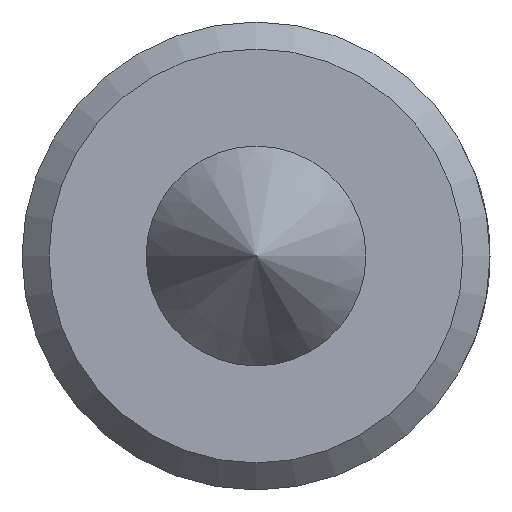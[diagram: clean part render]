
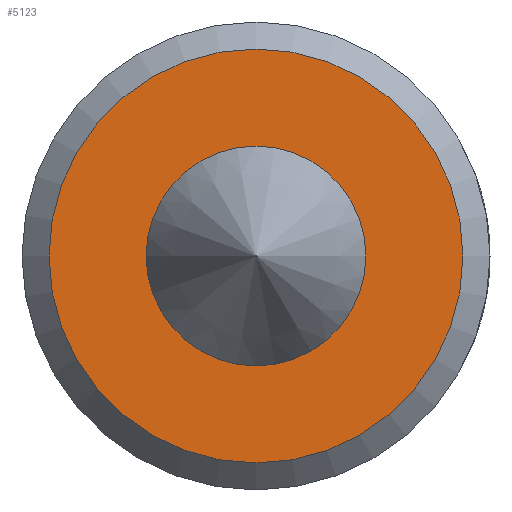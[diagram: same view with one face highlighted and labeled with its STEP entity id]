
A CAD part, left-side view. The second image highlights one B-rep face of the part: STEP entity #5123.
In plain terms, the highlighted planar face has unit normal (-1, 0, 0).
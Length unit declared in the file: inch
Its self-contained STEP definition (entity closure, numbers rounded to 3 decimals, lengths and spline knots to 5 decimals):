
#258=FACE_BOUND('',#1307,.T.);
#734=PLANE('',#5227);
#1008=FACE_OUTER_BOUND('',#1306,.T.);
#1306=EDGE_LOOP('',(#4773));
#1307=EDGE_LOOP('',(#4774));
#1362=CIRCLE('',#5225,1.149);
#1363=CIRCLE('',#5228,0.61);
#2455=VERTEX_POINT('',#12493);
#2456=VERTEX_POINT('',#12498);
#3228=EDGE_CURVE('',#2455,#2455,#1362,.T.);
#3230=EDGE_CURVE('',#2456,#2456,#1363,.T.);
#4773=ORIENTED_EDGE('',*,*,#3228,.F.);
#4774=ORIENTED_EDGE('',*,*,#3230,.F.);
#5123=ADVANCED_FACE('',(#1008,#258),#734,.T.);
#5225=AXIS2_PLACEMENT_3D('',#12494,#5711,#5712);
#5227=AXIS2_PLACEMENT_3D('',#12497,#5716,#5717);
#5228=AXIS2_PLACEMENT_3D('',#12499,#5718,#5719);
#5711=DIRECTION('center_axis',(1.,0.,0.));
#5712=DIRECTION('ref_axis',(0.,1.,0.));
#5716=DIRECTION('center_axis',(-1.,0.,0.));
#5717=DIRECTION('ref_axis',(0.,-1.,0.));
#5718=DIRECTION('center_axis',(-1.,0.,0.));
#5719=DIRECTION('ref_axis',(0.,-1.,0.));
#12493=CARTESIAN_POINT('',(-6.99335,-1.149,0.));
#12494=CARTESIAN_POINT('Origin',(-6.99335,0.,0.));
#12497=CARTESIAN_POINT('Origin',(-6.99335,-0.61,0.));
#12498=CARTESIAN_POINT('',(-6.99335,0.61,0.));
#12499=CARTESIAN_POINT('Origin',(-6.99335,0.,0.));
